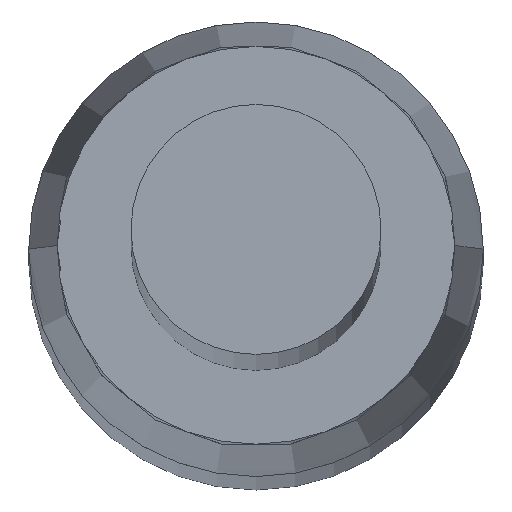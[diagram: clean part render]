
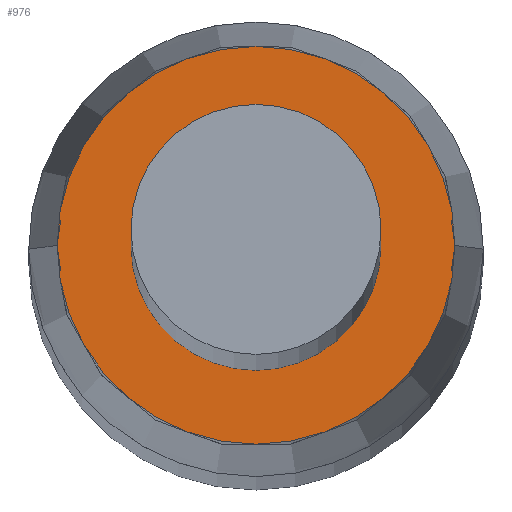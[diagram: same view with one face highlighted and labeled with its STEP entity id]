
A CAD part, top view. The second image highlights one B-rep face of the part: STEP entity #976.
In plain terms, the highlighted planar face has unit normal (0, 0, 1) as drawn and (0, 1, 0) by its records, which use the part's own axes.
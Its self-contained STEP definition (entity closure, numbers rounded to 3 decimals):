
#854=CARTESIAN_POINT('',(1.75,10.,0.0));
#855=VERTEX_POINT('',#854);
#864=CARTESIAN_POINT('',(-1.75,10.,0.));
#865=VERTEX_POINT('',#864);
#866=CARTESIAN_POINT('',(0.0,10.,0.0));
#867=DIRECTION('',(0.0,-1.0,0.0));
#868=DIRECTION('',(1.0,0.0,0.0));
#869=AXIS2_PLACEMENT_3D('',#866,#867,#868);
#870=CIRCLE('',#869,1.75);
#871=EDGE_CURVE('',#855,#865,#870,.T.);
#898=CARTESIAN_POINT('',(0.0,10.,1.1));
#899=VERTEX_POINT('',#898);
#915=CARTESIAN_POINT('',(0.,10.,-1.1));
#916=VERTEX_POINT('',#915);
#923=CARTESIAN_POINT('',(0.0,10.,0.0));
#924=DIRECTION('',(0.0,-1.0,0.0));
#925=DIRECTION('',(0.0,0.0,1.0));
#926=AXIS2_PLACEMENT_3D('',#923,#924,#925);
#927=CIRCLE('',#926,1.1);
#928=EDGE_CURVE('',#899,#916,#927,.T.);
#939=CARTESIAN_POINT('',(0.0,10.,0.0));
#940=DIRECTION('',(0.0,-1.0,0.0));
#941=DIRECTION('',(0.0,0.0,1.0));
#942=AXIS2_PLACEMENT_3D('',#939,#940,#941);
#943=CIRCLE('',#942,1.1);
#944=EDGE_CURVE('',#916,#899,#943,.T.);
#957=CARTESIAN_POINT('',(0.875,10.,0.0));
#958=DIRECTION('',(0.0,1.0,0.0));
#959=DIRECTION('',(0.0,0.0,1.0));
#960=AXIS2_PLACEMENT_3D('',#957,#958,#959);
#961=PLANE('',#960);
#962=ORIENTED_EDGE('',*,*,#871,.F.);
#963=CARTESIAN_POINT('',(0.0,10.,0.0));
#964=DIRECTION('',(0.0,-1.0,0.0));
#965=DIRECTION('',(1.0,0.0,0.0));
#966=AXIS2_PLACEMENT_3D('',#963,#964,#965);
#967=CIRCLE('',#966,1.75);
#968=EDGE_CURVE('',#865,#855,#967,.T.);
#969=ORIENTED_EDGE('',*,*,#968,.F.);
#970=EDGE_LOOP('',(#962,#969));
#971=FACE_OUTER_BOUND('',#970,.T.);
#972=ORIENTED_EDGE('',*,*,#928,.T.);
#973=ORIENTED_EDGE('',*,*,#944,.T.);
#974=EDGE_LOOP('',(#972,#973));
#975=FACE_BOUND('',#974,.T.);
#976=ADVANCED_FACE('',(#971,#975),#961,.T.);
